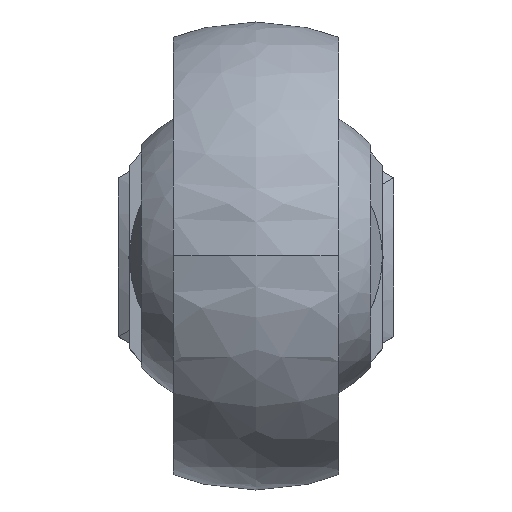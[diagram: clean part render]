
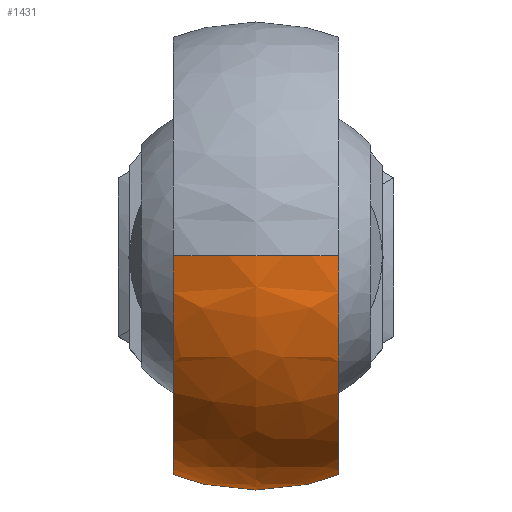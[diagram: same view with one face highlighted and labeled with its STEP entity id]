
A CAD part, top view. The second image highlights one B-rep face of the part: STEP entity #1431.
In plain terms, the highlighted spherical face has radius 25.5 mm.
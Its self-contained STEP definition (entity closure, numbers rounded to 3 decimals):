
#62 = EDGE_CURVE ( 'NONE', #954, #1239, #738, .T. ) ;
#294 = DIRECTION ( 'NONE',  ( 0., -1., 0. ) ) ;
#341 = AXIS2_PLACEMENT_3D ( 'NONE', #1144, #1013, #1398 ) ;
#465 = ORIENTED_EDGE ( 'NONE', *, *, #62, .T. ) ;
#530 = CIRCLE ( 'NONE', #1187, 18.915 ) ;
#634 = AXIS2_PLACEMENT_3D ( 'NONE', #807, #294, #1155 ) ;
#640 = ORIENTED_EDGE ( 'NONE', *, *, #1011, .T. ) ;
#644 = DIRECTION ( 'NONE',  ( 1., 0., 0. ) ) ;
#701 = CARTESIAN_POINT ( 'NONE',  ( -9., 0., 294.859 ) ) ;
#728 = EDGE_CURVE ( 'NONE', #1500, #954, #794, .T. ) ;
#738 = CIRCLE ( 'NONE', #1079, 23.859 ) ;
#766 = SPHERICAL_SURFACE ( 'NONE', #341, 25.5 ) ;
#769 = CARTESIAN_POINT ( 'NONE',  ( -9., 0., 271. ) ) ;
#794 = CIRCLE ( 'NONE', #634, 25.5 ) ;
#807 = CARTESIAN_POINT ( 'NONE',  ( 0., 0., 271. ) ) ;
#826 = AXIS2_PLACEMENT_3D ( 'NONE', #970, #1604, #1498 ) ;
#888 = FACE_OUTER_BOUND ( 'NONE', #1104, .T. ) ;
#905 = CARTESIAN_POINT ( 'NONE',  ( 9., 0., 294.859 ) ) ;
#954 = VERTEX_POINT ( 'NONE', #701 ) ;
#970 = CARTESIAN_POINT ( 'NONE',  ( 9., 0., 271. ) ) ;
#1011 = EDGE_CURVE ( 'NONE', #1167, #1500, #1451, .T. ) ;
#1013 = DIRECTION ( 'NONE',  ( 0., 1., 0. ) ) ;
#1049 = EDGE_CURVE ( 'NONE', #1167, #1239, #530, .T. ) ;
#1078 = CARTESIAN_POINT ( 'NONE',  ( -9., -16.636, 253.898 ) ) ;
#1079 = AXIS2_PLACEMENT_3D ( 'NONE', #769, #644, #1272 ) ;
#1104 = EDGE_LOOP ( 'NONE', ( #640, #1226, #465, #1444 ) ) ;
#1144 = CARTESIAN_POINT ( 'NONE',  ( 0., 0., 271. ) ) ;
#1155 = DIRECTION ( 'NONE',  ( 0., 0., -1. ) ) ;
#1167 = VERTEX_POINT ( 'NONE', #1400 ) ;
#1187 = AXIS2_PLACEMENT_3D ( 'NONE', #1613, #1237, #1595 ) ;
#1226 = ORIENTED_EDGE ( 'NONE', *, *, #728, .T. ) ;
#1237 = DIRECTION ( 'NONE',  ( 0., 0., -1. ) ) ;
#1239 = VERTEX_POINT ( 'NONE', #1078 ) ;
#1272 = DIRECTION ( 'NONE',  ( 0., 0., -1. ) ) ;
#1398 = DIRECTION ( 'NONE',  ( 0., 0., 1. ) ) ;
#1400 = CARTESIAN_POINT ( 'NONE',  ( 9., -16.636, 253.898 ) ) ;
#1431 = ADVANCED_FACE ( 'NONE', ( #888 ), #766, .T. ) ;
#1444 = ORIENTED_EDGE ( 'NONE', *, *, #1049, .F. ) ;
#1451 = CIRCLE ( 'NONE', #826, 23.859 ) ;
#1498 = DIRECTION ( 'NONE',  ( 0., 0., 1. ) ) ;
#1500 = VERTEX_POINT ( 'NONE', #905 ) ;
#1595 = DIRECTION ( 'NONE',  ( 0., -1., 0. ) ) ;
#1604 = DIRECTION ( 'NONE',  ( -1., 0., 0. ) ) ;
#1613 = CARTESIAN_POINT ( 'NONE',  ( 0., 0., 253.898 ) ) ;
